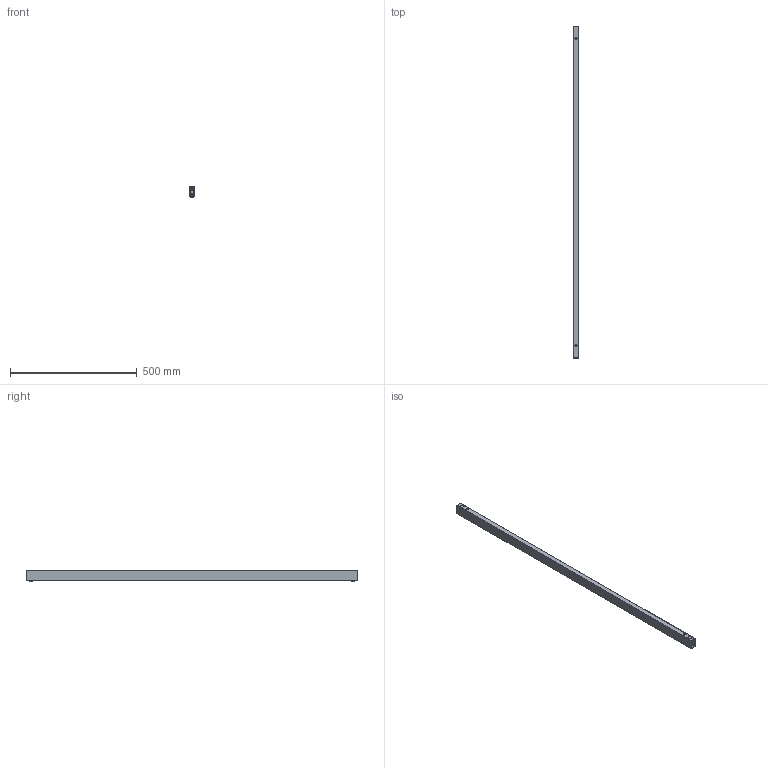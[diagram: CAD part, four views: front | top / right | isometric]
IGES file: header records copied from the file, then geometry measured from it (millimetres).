
Start section: Data from Parasolid IGES Translator 20.0.26, Copyright(c) 2006 Siemens P LM Software. All Rights Reserved.
Global section: file name: 46013.igs; native system: By Siemens PLM Incorporated; preprocessor: XPlus GENERIC/IGES 20.0.26; author: Noname; organization: Noname; date: 20210125.173224; units: millimetre
Bounding box: 20 x 1310 x 41.5 mm (x, y, z)
Surface area: 302493.7 mm2 (no closed solid volume)
Topology: 0 solids, 0 shells, 24 faces, 120 edges, 100 vertices
Faces by surface type: revolution 12, extrusion 12
